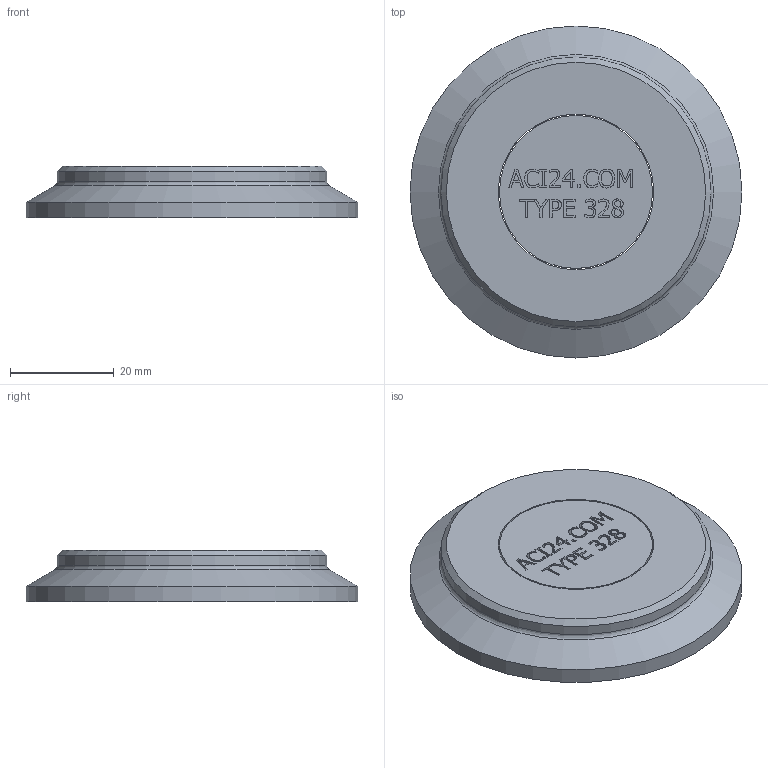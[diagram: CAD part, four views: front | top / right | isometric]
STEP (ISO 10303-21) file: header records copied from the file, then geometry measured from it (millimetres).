
FILE_DESCRIPTION(/* description */ ('ACI Typ 328 DN 50 PN 16'),/* implementation_level */ '2;1');
FILE_NAME(/* name */ 'C:\Users\willms\Desktop\ACI-328-50-16.stp',/* time_stamp */ '2020-09-01T16:11:34+02:00',/* author */ ('götz'),/* organization */ ('ACI Industriearmaturen GmbH info@aci24.com www.aci24.com'),/* preprocessor_version */ 'ST-DEVELOPER v16.1',/* originating_system */ 'Autodesk Inventor 2016',/* authorisation */ 'ACI Industriearmaturen GmbH info@aci24.com www.aci24.com');
FILE_SCHEMA (('CONFIG_CONTROL_DESIGN'));
Length unit declared in the file: centimetre
Products named in the file (1): ACI-328-50-16
Bounding box: 64 x 64 x 10 mm (x, y, z)
Volume: 25572.1 mm3; surface area: 10130.3 mm2
Topology: 2 solids, 2 shells, 270 faces, 725 edges, 482 vertices
Faces by surface type: plane 147, bspline 114, cylinder 4, cone 4, torus 1
Full cylindrical faces by diameter (mm): 29.5 x1, 30 x1, 52 x1, 64 x1
Entity records: 8972 total; most frequent: CARTESIAN_POINT 2951, ORIENTED_EDGE 1432, DIRECTION 816, EDGE_CURVE 716, VERTEX_POINT 482, LINE 474, VECTOR 474, EDGE_LOOP 304
